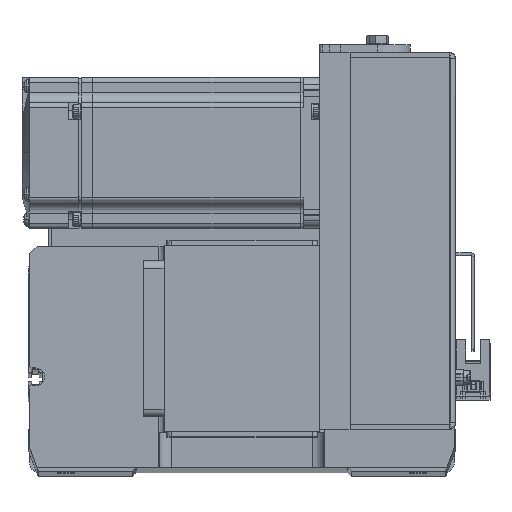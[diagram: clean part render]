
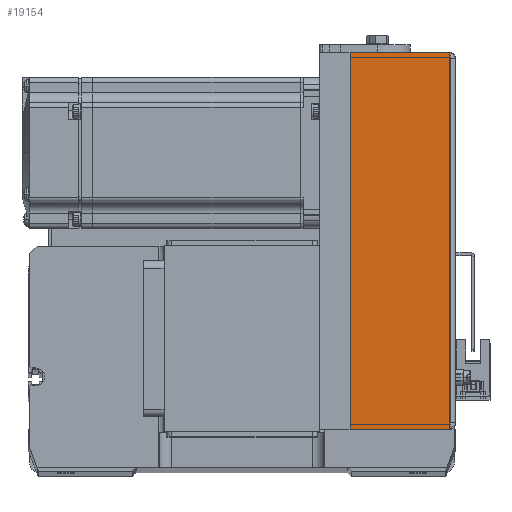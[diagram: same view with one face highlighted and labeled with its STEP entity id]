
A CAD part, top view. The second image highlights one B-rep face of the part: STEP entity #19154.
In plain terms, the highlighted planar face has unit normal (0, 0, 1) as drawn and (0, -1, 0) by its records, which use the part's own axes.
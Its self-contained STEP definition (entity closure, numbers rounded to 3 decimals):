
#51 = VECTOR ( 'NONE', #38433, 1000. ) ;
#326 = CARTESIAN_POINT ( 'NONE',  ( -75., -36., 12. ) ) ;
#1489 = CARTESIAN_POINT ( 'NONE',  ( 75., -36., 51.5 ) ) ;
#3944 = VERTEX_POINT ( 'NONE', #20079 ) ;
#8382 = LINE ( 'NONE', #12040, #13091 ) ;
#9393 = DIRECTION ( 'NONE',  ( 0., 0., -1. ) ) ;
#10117 = LINE ( 'NONE', #1489, #31175 ) ;
#12040 = CARTESIAN_POINT ( 'NONE',  ( 0., -36., 12. ) ) ;
#12165 = VERTEX_POINT ( 'NONE', #326 ) ;
#12448 = LINE ( 'NONE', #37400, #24379 ) ;
#13091 = VECTOR ( 'NONE', #20806, 1000. ) ;
#13328 = ORIENTED_EDGE ( 'NONE', *, *, #39186, .T. ) ;
#13560 = DIRECTION ( 'NONE',  ( 1., 0., 0. ) ) ;
#14175 = EDGE_LOOP ( 'NONE', ( #32092, #15818, #13328, #37127 ) ) ;
#14487 = VERTEX_POINT ( 'NONE', #25050 ) ;
#15818 = ORIENTED_EDGE ( 'NONE', *, *, #21248, .T. ) ;
#17385 = EDGE_CURVE ( 'NONE', #3944, #34266, #10117, .T. ) ;
#19154 = ADVANCED_FACE ( 'NONE', ( #21127 ), #21318, .F. ) ;
#20079 = CARTESIAN_POINT ( 'NONE',  ( -75., -36., 51.5 ) ) ;
#20806 = DIRECTION ( 'NONE',  ( 1., 0., 0. ) ) ;
#21127 = FACE_OUTER_BOUND ( 'NONE', #14175, .T. ) ;
#21248 = EDGE_CURVE ( 'NONE', #3944, #12165, #28824, .T. ) ;
#21318 = PLANE ( 'NONE',  #31327 ) ;
#22950 = EDGE_CURVE ( 'NONE', #34266, #14487, #12448, .T. ) ;
#24379 = VECTOR ( 'NONE', #9393, 1000. ) ;
#25050 = CARTESIAN_POINT ( 'NONE',  ( 75., -36., 12. ) ) ;
#26922 = DIRECTION ( 'NONE',  ( 0., 0., -1. ) ) ;
#28824 = LINE ( 'NONE', #29023, #51 ) ;
#29023 = CARTESIAN_POINT ( 'NONE',  ( -75., -36., 51.5 ) ) ;
#30775 = CARTESIAN_POINT ( 'NONE',  ( 0., -36., 52. ) ) ;
#31175 = VECTOR ( 'NONE', #13560, 1000. ) ;
#31327 = AXIS2_PLACEMENT_3D ( 'NONE', #30775, #33615, #26922 ) ;
#32092 = ORIENTED_EDGE ( 'NONE', *, *, #17385, .F. ) ;
#33615 = DIRECTION ( 'NONE',  ( 0., 1., 0. ) ) ;
#34266 = VERTEX_POINT ( 'NONE', #39137 ) ;
#37127 = ORIENTED_EDGE ( 'NONE', *, *, #22950, .F. ) ;
#37400 = CARTESIAN_POINT ( 'NONE',  ( 75., -36., 51.5 ) ) ;
#38433 = DIRECTION ( 'NONE',  ( 0., 0., -1. ) ) ;
#39137 = CARTESIAN_POINT ( 'NONE',  ( 75., -36., 51.5 ) ) ;
#39186 = EDGE_CURVE ( 'NONE', #12165, #14487, #8382, .T. ) ;
